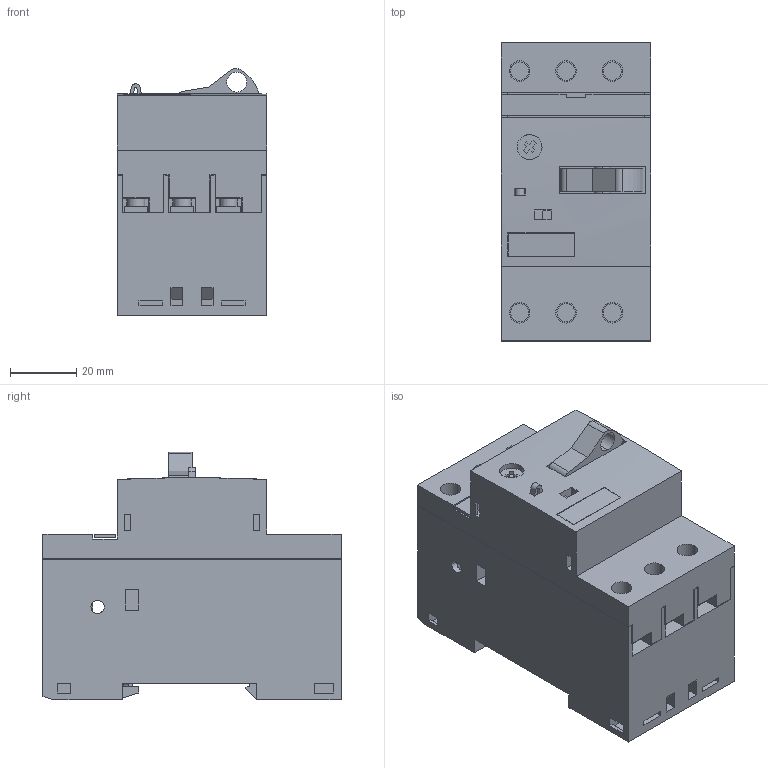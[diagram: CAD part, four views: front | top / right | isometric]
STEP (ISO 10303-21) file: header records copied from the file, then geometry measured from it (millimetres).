
FILE_DESCRIPTION (( 'STEP AP214' ), '1' );
FILE_NAME ('OMRON-J7MN_12_E16.step', '2010-05-17T11:03:20', ( 'sysAdmin' ), ( 'SolidWorks' ), 'SwSTEP 2.0', 'SolidWorks 2010', '' );
FILE_SCHEMA (( 'AUTOMOTIVE_DESIGN' ));
Length unit declared in the file: millimetre
Products named in the file (4): OMRON-J7MN_12_E16_J7MN_12_E16_BASE; OMRON-J7MN_12_E16_J7MN_12_E16_COVER; OMRON-J7MN_12_E16_J7MN_12_E16_SWITCH; OMRON-J7MN_12_E16
Assembly tree (3 placements, depth 2):
  OMRON-J7MN_12_E16
    OMRON-J7MN_12_E16_J7MN_12_E16_SWITCH
    OMRON-J7MN_12_E16_J7MN_12_E16_COVER
    OMRON-J7MN_12_E16_J7MN_12_E16_BASE
Bounding box: 45 x 90 x 74.68 mm (x, y, z)
Volume: 212665.3 mm3; surface area: 36390.4 mm2
Topology: 3 solids, 3 shells, 426 faces, 1113 edges, 730 vertices
Faces by surface type: plane 355, cylinder 62, torus 9
Entity records: 15473 total; most frequent: CARTESIAN_POINT 2357, ORIENTED_EDGE 2226, DIRECTION 2121, EDGE_CURVE 1113, VECTOR 953, LINE 953, VERTEX_POINT 730, AXIS2_PLACEMENT_3D 584
